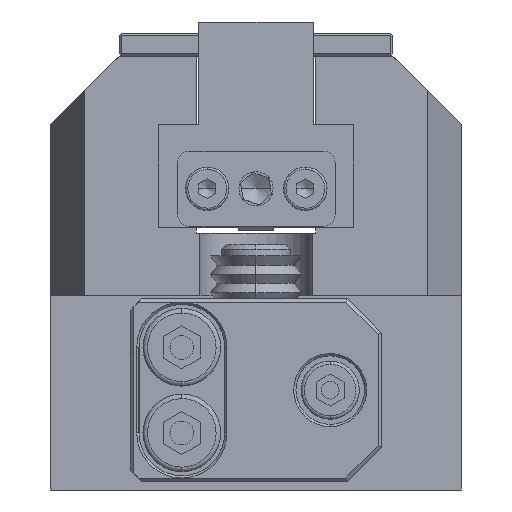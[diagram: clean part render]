
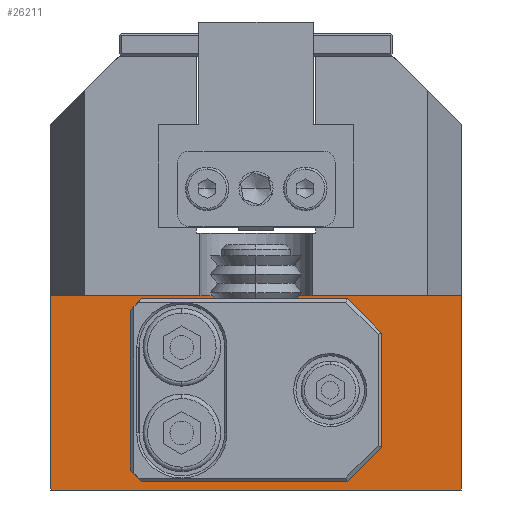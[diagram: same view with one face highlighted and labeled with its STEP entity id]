
A CAD part, left-side view. The second image highlights one B-rep face of the part: STEP entity #26211.
In plain terms, the highlighted planar face has unit normal (-1, 0, 0).
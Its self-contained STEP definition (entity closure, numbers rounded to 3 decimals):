
#70 = CARTESIAN_POINT ( 'NONE',  ( -26., 18., 17. ) ) ;
#893 = DIRECTION ( 'NONE',  ( -1., 0., 0. ) ) ;
#1441 = ORIENTED_EDGE ( 'NONE', *, *, #10372, .F. ) ;
#1732 = CARTESIAN_POINT ( 'NONE',  ( -26., -18., 0. ) ) ;
#2403 = DIRECTION ( 'NONE',  ( 0., 0., 1. ) ) ;
#3283 = AXIS2_PLACEMENT_3D ( 'NONE', #41956, #13696, #9133 ) ;
#6983 = CARTESIAN_POINT ( 'NONE',  ( -26., -18., 0. ) ) ;
#7273 = CARTESIAN_POINT ( 'NONE',  ( -26., 6.5, 5. ) ) ;
#7427 = EDGE_CURVE ( 'NONE', #32288, #27634, #23103, .T. ) ;
#9062 = CARTESIAN_POINT ( 'NONE',  ( -26., 6.5, 14.5 ) ) ;
#9133 = DIRECTION ( 'NONE',  ( 0., 0., 1. ) ) ;
#9368 = ORIENTED_EDGE ( 'NONE', *, *, #49711, .F. ) ;
#9579 = DIRECTION ( 'NONE',  ( 1., 0., 0. ) ) ;
#9798 = CARTESIAN_POINT ( 'NONE',  ( -26., 6.5, 10.5 ) ) ;
#10372 = EDGE_CURVE ( 'NONE', #38624, #19410, #21956, .T. ) ;
#11064 = CARTESIAN_POINT ( 'NONE',  ( -26., 18., 0. ) ) ;
#12442 = DIRECTION ( 'NONE',  ( -1., 0., 0. ) ) ;
#13436 = CIRCLE ( 'NONE', #14400, 2. ) ;
#13696 = DIRECTION ( 'NONE',  ( -1., 0., 0. ) ) ;
#14400 = AXIS2_PLACEMENT_3D ( 'NONE', #7273, #12442, #43745 ) ;
#15189 = CARTESIAN_POINT ( 'NONE',  ( -26., 6.5, 12.5 ) ) ;
#16141 = EDGE_LOOP ( 'NONE', ( #38136, #17782, #9368, #58752 ) ) ;
#17782 = ORIENTED_EDGE ( 'NONE', *, *, #38949, .F. ) ;
#18086 = VECTOR ( 'NONE', #55600, 1000. ) ;
#19200 = CARTESIAN_POINT ( 'NONE',  ( -26., 6.5, 7. ) ) ;
#19410 = VERTEX_POINT ( 'NONE', #31006 ) ;
#20216 = FACE_BOUND ( 'NONE', #52241, .T. ) ;
#21956 = CIRCLE ( 'NONE', #55917, 2. ) ;
#22047 = DIRECTION ( 'NONE',  ( 0., -1., 0. ) ) ;
#22955 = CARTESIAN_POINT ( 'NONE',  ( -26., -18., 17. ) ) ;
#23059 = ORIENTED_EDGE ( 'NONE', *, *, #33381, .F. ) ;
#23103 = LINE ( 'NONE', #60164, #18086 ) ;
#23292 = ORIENTED_EDGE ( 'NONE', *, *, #30634, .F. ) ;
#23313 = AXIS2_PLACEMENT_3D ( 'NONE', #15189, #893, #37414 ) ;
#24888 = ORIENTED_EDGE ( 'NONE', *, *, #36543, .F. ) ;
#26105 = VECTOR ( 'NONE', #28602, 1000. ) ;
#26211 = ADVANCED_FACE ( 'NONE', ( #20216, #38478, #55786 ), #32706, .F. ) ;
#26556 = EDGE_LOOP ( 'NONE', ( #23292, #23059 ) ) ;
#27634 = VERTEX_POINT ( 'NONE', #11064 ) ;
#28144 = DIRECTION ( 'NONE',  ( 0., 1., 0. ) ) ;
#28303 = CARTESIAN_POINT ( 'NONE',  ( -26., 18., 0. ) ) ;
#28602 = DIRECTION ( 'NONE',  ( 0., 0., 1. ) ) ;
#29398 = EDGE_CURVE ( 'NONE', #27634, #30316, #34059, .T. ) ;
#30316 = VERTEX_POINT ( 'NONE', #70 ) ;
#30633 = AXIS2_PLACEMENT_3D ( 'NONE', #51237, #9579, #28144 ) ;
#30634 = EDGE_CURVE ( 'NONE', #43327, #55492, #47530, .T. ) ;
#31006 = CARTESIAN_POINT ( 'NONE',  ( -26., 6.5, 3. ) ) ;
#32288 = VERTEX_POINT ( 'NONE', #1732 ) ;
#32706 = PLANE ( 'NONE',  #30633 ) ;
#33381 = EDGE_CURVE ( 'NONE', #55492, #43327, #55699, .T. ) ;
#34059 = LINE ( 'NONE', #28303, #26105 ) ;
#34339 = DIRECTION ( 'NONE',  ( -1., 0., 0. ) ) ;
#36543 = EDGE_CURVE ( 'NONE', #19410, #38624, #13436, .T. ) ;
#37414 = DIRECTION ( 'NONE',  ( 0., 0., 1. ) ) ;
#38136 = ORIENTED_EDGE ( 'NONE', *, *, #7427, .F. ) ;
#38478 = FACE_BOUND ( 'NONE', #26556, .T. ) ;
#38624 = VERTEX_POINT ( 'NONE', #19200 ) ;
#38949 = EDGE_CURVE ( 'NONE', #51733, #32288, #54399, .T. ) ;
#39198 = CARTESIAN_POINT ( 'NONE',  ( -26., 6.5, 5. ) ) ;
#41377 = CARTESIAN_POINT ( 'NONE',  ( -26., -18., 17. ) ) ;
#41956 = CARTESIAN_POINT ( 'NONE',  ( -26., 6.5, 12.5 ) ) ;
#43327 = VERTEX_POINT ( 'NONE', #9062 ) ;
#43745 = DIRECTION ( 'NONE',  ( 0., 0., 1. ) ) ;
#46519 = VECTOR ( 'NONE', #58354, 1000. ) ;
#47530 = CIRCLE ( 'NONE', #23313, 2. ) ;
#49711 = EDGE_CURVE ( 'NONE', #30316, #51733, #54251, .T. ) ;
#50508 = VECTOR ( 'NONE', #22047, 1000. ) ;
#51237 = CARTESIAN_POINT ( 'NONE',  ( -26., -18., 0. ) ) ;
#51733 = VERTEX_POINT ( 'NONE', #41377 ) ;
#52241 = EDGE_LOOP ( 'NONE', ( #1441, #24888 ) ) ;
#54251 = LINE ( 'NONE', #22955, #50508 ) ;
#54399 = LINE ( 'NONE', #6983, #46519 ) ;
#55492 = VERTEX_POINT ( 'NONE', #9798 ) ;
#55600 = DIRECTION ( 'NONE',  ( 0., 1., 0. ) ) ;
#55699 = CIRCLE ( 'NONE', #3283, 2. ) ;
#55786 = FACE_OUTER_BOUND ( 'NONE', #16141, .T. ) ;
#55917 = AXIS2_PLACEMENT_3D ( 'NONE', #39198, #34339, #2403 ) ;
#58354 = DIRECTION ( 'NONE',  ( 0., 0., -1. ) ) ;
#58752 = ORIENTED_EDGE ( 'NONE', *, *, #29398, .F. ) ;
#60164 = CARTESIAN_POINT ( 'NONE',  ( -26., -18., 0. ) ) ;
